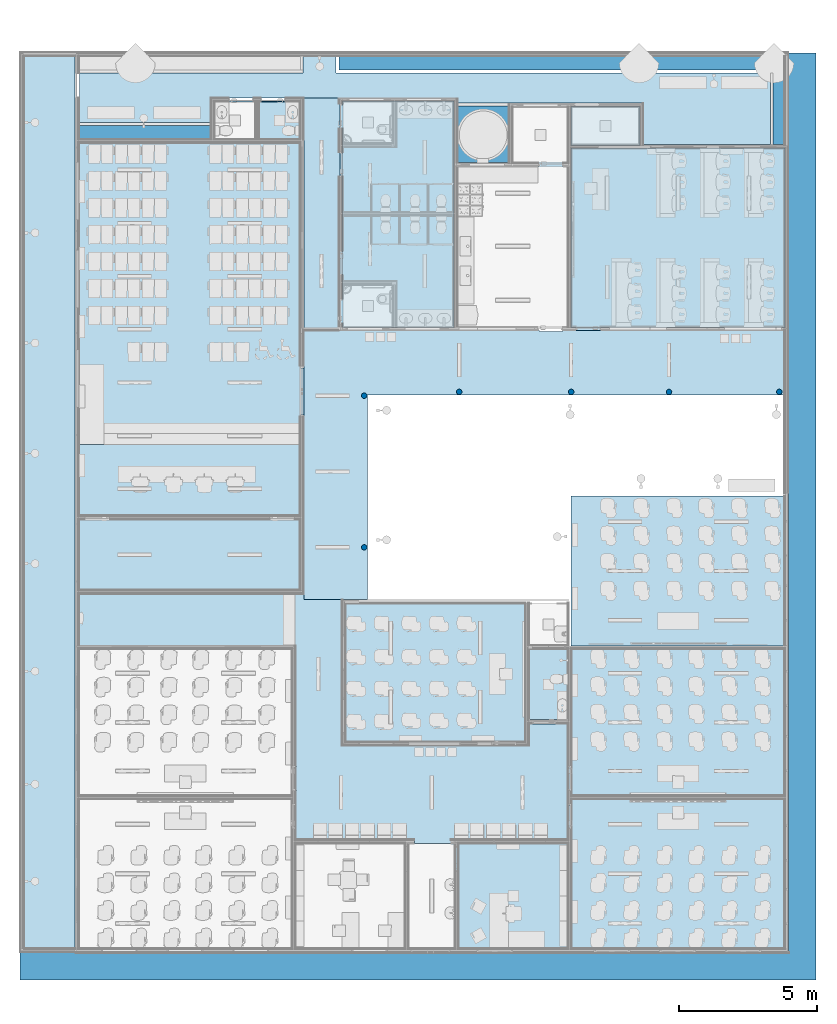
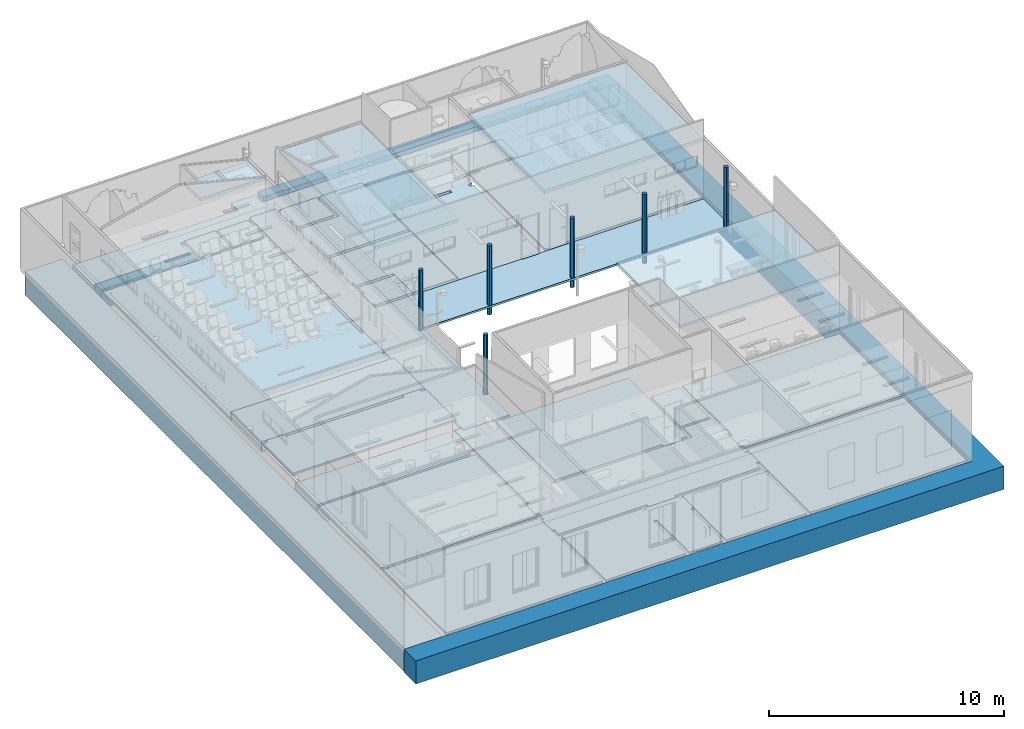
# One storey, part 1 of 155: 31 slabs, 6 columns.
"""IFC2X3 building model written with IfcOpenShell, lengths in metres."""

from ifc_helpers import new_model, entity, si_unit, converted_unit, derived_unit, direction, frame, frame_2d, origin, origin_2d_with_axis, place, context, subcontext, project, spatial, polyline, rectangle, circle, outline, extrude, source, transform, mapped, material, layer, layer_set, layer_usage, type_object, type_shapes, element, save


model = new_model("IFC2X3")

# Units and contexts
model_context = context("Model", 3, precision=1e-05, world=origin(), true_north=direction((6.12303176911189e-17, 1.0)))
body_context = subcontext(model_context, "Body", "Model", "MODEL_VIEW")
ifc_project = project(units=[si_unit("LENGTHUNIT", "METRE"), si_unit("AREAUNIT", "SQUARE_METRE"), si_unit("VOLUMEUNIT", "CUBIC_METRE"), converted_unit("PLANEANGLEUNIT", "DEGREE", entity("IfcRatioMeasure", 0.0174532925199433), si_unit("PLANEANGLEUNIT", "RADIAN"), dimensions=[0, 0, 0, 0, 0, 0, 0]), si_unit("MASSUNIT", "GRAM", prefix="KILO"), derived_unit("MASSDENSITYUNIT", [(si_unit("MASSUNIT", "GRAM", prefix="KILO"), 1), (si_unit("LENGTHUNIT", "METRE"), -3)]), si_unit("TIMEUNIT", "SECOND"), si_unit("FREQUENCYUNIT", "HERTZ"), si_unit("THERMODYNAMICTEMPERATUREUNIT", "DEGREE_CELSIUS"), derived_unit("THERMALTRANSMITTANCEUNIT", [(si_unit("MASSUNIT", "GRAM", prefix="KILO"), 1), (si_unit("THERMODYNAMICTEMPERATUREUNIT", "KELVIN"), -1), (si_unit("TIMEUNIT", "SECOND"), -3)]), derived_unit("VOLUMETRICFLOWRATEUNIT", [(si_unit("LENGTHUNIT", "METRE"), 3), (si_unit("TIMEUNIT", "SECOND"), -1)]), si_unit("ELECTRICCURRENTUNIT", "AMPERE"), si_unit("ELECTRICVOLTAGEUNIT", "VOLT"), si_unit("POWERUNIT", "WATT"), si_unit("FORCEUNIT", "NEWTON", prefix="KILO"), si_unit("ILLUMINANCEUNIT", "LUX"), si_unit("LUMINOUSFLUXUNIT", "LUMEN"), si_unit("LUMINOUSINTENSITYUNIT", "CANDELA"), derived_unit("USERDEFINED", [(si_unit("MASSUNIT", "GRAM", prefix="KILO"), -1), (si_unit("LENGTHUNIT", "METRE"), -2), (si_unit("TIMEUNIT", "SECOND"), 3), (si_unit("LUMINOUSFLUXUNIT", "LUMEN"), 1)]), derived_unit("LINEARVELOCITYUNIT", [(si_unit("LENGTHUNIT", "METRE"), 1), (si_unit("TIMEUNIT", "SECOND"), -1)]), si_unit("PRESSUREUNIT", "PASCAL"), derived_unit("USERDEFINED", [(si_unit("LENGTHUNIT", "METRE"), -2), (si_unit("MASSUNIT", "GRAM", prefix="KILO"), 1), (si_unit("TIMEUNIT", "SECOND"), -2)])], contexts=[model_context])

# Site, building, storey
site_placement = place(None, frame((26.9889013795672, -17.5624287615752, 0.0)))
site = spatial("IfcSite", under=ifc_project, at=site_placement, Name="Default", CompositionType="ELEMENT")
building_placement = place(site_placement, origin())
building = spatial("IfcBuilding", under=site, at=building_placement, Name="C. C. L. Monsenhor Antônio Sampaio", CompositionType="ELEMENT")
storey_placement = place(building_placement, frame((0.0, 0.0, 1.19999999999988)))
storey = spatial("IfcBuildingStorey", under=building, at=storey_placement, Name="Nível 1.2", CompositionType="ELEMENT", Elevation=1.19999999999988)

# Columns
column_type_1 = type_object("IfcColumnType", Name="d. 20cm", PredefinedType="COLUMN")
shared_shape_1 = source(origin(), body_context, "Body", "SweptSolid", [
    extrude(circle(Radius=0.0999999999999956, at=frame_2d((-4.2299497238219e-17, 1.69923679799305e-16), x_axis=(1.0, 0.0))), frame((0.0, 0.0, 1.19999999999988), z_axis=(0.0, 0.0, 1.0), x_axis=(-1.0, 0.0, 0.0)), (0.0, 0.0, 1.0), 3.10000000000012),
])
type_shapes(column_type_1, [shared_shape_1])
column_placement = place(storey_placement, frame((11.3994477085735, -19.1230663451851, -1.19999999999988)))
element("IfcColumn", 1, at=column_placement, inside=storey, type_object=column_type_1, Name="Pilar circular:d. 20cm", ObjectType="d. 20cm", context=body_context, shape_type="MappedRepresentation", body=[
    mapped(shared_shape_1, transform((0.0, 0.0, 0.0), scale=1.0)),
])
column_type_2 = type_object("IfcColumnType", Name="d. 20cm", PredefinedType="COLUMN")
shared_shape_2 = source(origin(), body_context, "Body", "SweptSolid", [
    extrude(circle(Radius=0.0999999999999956, at=frame_2d((-4.2299497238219e-17, 1.69923679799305e-16), x_axis=(1.0, 0.0))), frame((0.0, 0.0, 0.699999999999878), z_axis=(0.0, 0.0, 1.0), x_axis=(-1.0, 0.0, 0.0)), (0.0, 0.0, 1.0), 3.60000000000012),
])
type_shapes(column_type_2, [shared_shape_2])
for number, where, name in (
    (2, (3.84944770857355, -19.1230663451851, -1.19999999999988), "Pilar circular:d. 20cm"),
    (3, (-0.210552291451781, -19.1230663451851, -1.19999999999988), "Pilar circular:d. 20cm"),
    (4, (-3.65661057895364, -19.2606376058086, -1.19999999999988), "Pilar circular:d. 20cm"),
    (5, (-3.65661057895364, -24.7630663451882, -1.19999999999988), "Pilar circular:d. 20cm"),
    (6, (7.39944770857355, -19.1230663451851, -1.19999999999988), "Pilar circular:d. 20cm"),
):
    element("IfcColumn", number, at=place(storey_placement, frame(where)), inside=storey, type_object=column_type_2, Name=name, ObjectType="d. 20cm", context=body_context, shape_type="MappedRepresentation", body=[
        mapped(shared_shape_2, transform((0.0, 0.0, 0.0), scale=1.0)),
    ])

# Slabs
ifc_material_1 = material(Name=".CERÂMICA 40x40 BRANCA")
ifc_layer_1 = layer(ifc_material_1, 0.01)
ifc_material_2 = material(Name=".Cimentado")
ifc_layer_2 = layer(ifc_material_2, 0.03)
ifc_material_3 = material(Name=".Lastro de Concreto")
ifc_layer_3 = layer(ifc_material_3, 0.12)
ifc_layer_set_1 = layer_set([ifc_layer_1, ifc_layer_2, ifc_layer_3], Name="Piso:.Piso_Área Molhada_40x40")
ifc_layer_usage_1 = layer_usage(ifc_layer_set_1, "AXIS3", "POSITIVE", 0.0)
slab_1_placement = place(storey_placement, origin())
element("IfcSlab", 7, at=slab_1_placement, inside=storey, material=ifc_layer_usage_1, Name="Piso:.Piso_Área Molhada_40x40", ObjectType="Piso:.Piso_Área Molhada_40x40", PredefinedType="FLOOR", context=body_context, shape_type="SweptSolid", body=[
    extrude(outline(polyline([(-0.549999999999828, -0.540001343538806), (0.350000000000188, -0.540001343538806), (0.350000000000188, -0.420001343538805), (0.85000000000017, -0.420001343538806), (0.850000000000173, 1.38000403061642), (-0.650000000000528, 1.38000403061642), (-0.650000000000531, -0.420001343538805), (-0.549999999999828, -0.420001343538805), (-0.549999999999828, -0.540001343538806)])), frame((-4.00055094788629, -16.1030663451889, 0.0), z_axis=(0.0, 0.0, -1.0), x_axis=(0.0, 1.0, 0.0)), (0.0, 0.0, 1.0), 0.16),
])
ifc_layer_usage_2 = layer_usage(ifc_layer_set_1, "AXIS3", "POSITIVE", 0.0)
slab_2_placement = place(storey_placement, origin())
element("IfcSlab", 8, at=slab_2_placement, inside=storey, material=ifc_layer_usage_2, Name="Piso:.Piso_Área Molhada_40x40", ObjectType="Piso:.Piso_Área Molhada_40x40", PredefinedType="FLOOR", context=body_context, shape_type="SweptSolid", body=[
    extrude(outline(polyline([(-0.169999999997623, -1.25598030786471), (0.669999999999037, -1.25598030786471), (0.669999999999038, -1.13607876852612), (1.94999999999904, -1.13607876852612), (1.94999999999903, 2.86401969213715), (-2.05000000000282, 2.86401969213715), (-2.05000000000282, 0.664019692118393), (-0.399999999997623, 0.664019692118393), (-0.39999999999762, -1.13598030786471), (-0.169999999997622, -1.13598030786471), (-0.169999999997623, -1.25598030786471)])), frame((-3.28457198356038, -14.7030663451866, 0.0), z_axis=(0.0, 0.0, -1.0), x_axis=(0.0, 1.0, 0.0)), (0.0, 0.0, 1.0), 0.16),
])
ifc_layer_usage_3 = layer_usage(ifc_layer_set_1, "AXIS3", "POSITIVE", 0.0)
slab_3_placement = place(storey_placement, frame((-4.54055229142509, -12.6030663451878, -0.16)))
element("IfcSlab", 9, at=slab_3_placement, inside=storey, material=ifc_layer_usage_3, Name="Piso:.Piso_Área Molhada_40x40", ObjectType="Piso:.Piso_Área Molhada_40x40", PredefinedType="FLOOR", context=body_context, shape_type="SweptSolid", body=[
    extrude(outline(polyline([(1.94000000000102, 0.150000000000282), (1.94000000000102, 0.350000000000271), (-0.00836474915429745, 0.350000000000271), (-0.00836474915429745, 2.0), (-2.06000000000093, 2.0), (-2.06000000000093, -2.0), (1.94000000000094, -2.0), (1.94000000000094, -0.68999999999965), (2.06000000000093, -0.68999999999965), (2.06000000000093, 0.150000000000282), (1.94000000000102, 0.150000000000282)])), frame((2.06000000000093, 2.0, 0.16), z_axis=(0.0, 0.0, -1.0), x_axis=(-1.0, 0.0, 0.0)), (0.0, 0.0, 1.0), 0.16),
])
slab_4_placement = place(storey_placement, frame((-4.54055229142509, -12.6030663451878, -0.16)))
element("IfcSlab", 10, at=slab_4_placement, inside=storey, material=ifc_layer_usage_3, Name="Piso:.Piso_Área Molhada_40x40:2", ObjectType="Piso:.Piso_Área Molhada_40x40", PredefinedType="FLOOR", context=body_context, shape_type="SweptSolid", body=[
    extrude(outline(polyline([(0.14163525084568, 0.500000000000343), (1.94000000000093, 0.500000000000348), (1.94000000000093, 1.0561739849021), (2.06000000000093, 1.0561739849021), (2.06000000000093, 1.89500000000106), (1.94000000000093, 1.89500000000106), (1.94000000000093, 2.0), (0.141635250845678, 2.0), (0.14163525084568, 0.500000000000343)])), frame((2.06000000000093, 2.0, 0.16), z_axis=(0.0, 0.0, -1.0), x_axis=(-1.0, 0.0, 0.0)), (0.0, 0.0, 1.0), 0.16),
])
ifc_material_4 = material(Name=".Granilite areia com junta de dilatação 1x1m")
ifc_layer_4 = layer(ifc_material_4, 0.1)
ifc_layer_set_2 = layer_set([ifc_layer_4], Name="Piso:Granilite")
ifc_layer_usage_4 = layer_usage(ifc_layer_set_2, "AXIS3", "POSITIVE", 0.0)
slab_5_placement = place(storey_placement, origin())
element("IfcSlab", 11, at=slab_5_placement, inside=storey, material=ifc_layer_usage_4, Name="Piso:Granilite", ObjectType="Piso:Granilite", PredefinedType="FLOOR", context=body_context, shape_type="SweptSolid", body=[
    extrude(outline(polyline([(-3.69125000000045, -6.03500000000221), (7.2337500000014, -6.03500000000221), (7.23375000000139, 1.96000000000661), (-0.911250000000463, 1.96000000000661), (-0.911250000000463, 2.1099999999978), (-2.63125000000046, 2.1099999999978), (-2.63125000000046, 1.96499999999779), (-3.69125000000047, 1.96499999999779), (-3.69125000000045, -6.03500000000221)])), frame((-7.95055229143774, -17.3368163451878, 0.0), z_axis=(0.0, 0.0, -1.0), x_axis=(0.0, 1.0, 0.0)), (0.0, 0.0, 1.0), 0.1),
])
ifc_layer_usage_5 = layer_usage(ifc_layer_set_2, "AXIS3", "POSITIVE", 0.0)
slab_6_placement = place(storey_placement, origin())
element("IfcSlab", 12, at=slab_6_placement, inside=storey, material=ifc_layer_usage_5, Name="Piso:Granilite", ObjectType="Piso:Granilite", PredefinedType="FLOOR", context=body_context, shape_type="SweptSolid", body=[
    extrude(outline(polyline([(-2.17499999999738, -4.00083333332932), (0.374999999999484, -4.00083333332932), (0.374999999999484, -3.76583333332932), (0.524999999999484, -3.76583333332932), (0.524999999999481, -2.93083333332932), (0.374999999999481, -2.93083333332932), (0.374999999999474, 2.92916666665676), (0.524999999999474, 2.92916666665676), (0.524999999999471, 3.7691666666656), (0.374999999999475, 3.7691666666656), (0.374999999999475, 3.99916666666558), (-2.17499999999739, 3.99916666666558), (-2.17499999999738, -4.00083333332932)])), frame((-9.98971895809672, -24.1280663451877, 0.4), z_axis=(0.0, 0.0, -1.0), x_axis=(0.0, 1.0, 0.0)), (0.0, 0.0, 1.0), 0.1),
])
ifc_layer_usage_6 = layer_usage(ifc_layer_set_2, "AXIS3", "POSITIVE", 0.0)
slab_7_placement = place(storey_placement, origin())
element("IfcSlab", 13, at=slab_7_placement, inside=storey, material=ifc_layer_usage_6, Name="Piso:Granilite", ObjectType="Piso:Granilite", PredefinedType="FLOOR", context=body_context, shape_type="SweptSolid", body=[
    extrude(outline(polyline([(-9.13977899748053, -6.48797275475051), (9.05889498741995, -6.48797275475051), (9.05889498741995, -5.18797275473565), (0.610221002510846, -5.18797275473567), (0.610221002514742, 2.04844550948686), (0.58022100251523, 2.04844550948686), (0.580221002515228, 2.88344550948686), (0.610221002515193, 2.88344550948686), (0.610221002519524, 10.932027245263), (-1.71977899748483, 10.932027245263), (-1.71977899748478, -4.18797275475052), (-9.13977899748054, -4.18797275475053), (-9.13977899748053, -6.48797275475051)])), frame((0.647420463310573, -17.5132873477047, 0.0), z_axis=(0.0, 0.0, -1.0), x_axis=(0.0, 1.0, 0.0)), (0.0, 0.0, 1.0), 0.1),
])
ifc_material_5 = material(Name=".Grama")
ifc_layer_5 = layer(ifc_material_5, 1.0)
ifc_layer_set_3 = layer_set([ifc_layer_5], Name="Piso:Grama")
ifc_layer_usage_7 = layer_usage(ifc_layer_set_3, "AXIS3", "POSITIVE", 0.0)
slab_8_placement = place(storey_placement, origin())
element("IfcSlab", 14, at=slab_8_placement, inside=storey, material=ifc_layer_usage_7, Name="Piso:Grama", ObjectType="Piso:Grama", PredefinedType="FLOOR", context=body_context, shape_type="SweptSolid", body=[
    extrude(rectangle(XDim=1.88000000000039, YDim=7.53999999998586, at=frame_2d((0.0, 4.44089209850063e-16), x_axis=(1.0, 0.0))), frame((-10.2205522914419, -27.3930663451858, 0.0), z_axis=(0.0, 0.0, -1.0), x_axis=(0.0, 1.0, 0.0)), (0.0, 0.0, 1.0), 1.0),
])
ifc_layer_usage_8 = layer_usage(ifc_layer_set_2, "AXIS3", "POSITIVE", 0.0)
slab_9_placement = place(storey_placement, origin())
element("IfcSlab", 15, at=slab_9_placement, inside=storey, material=ifc_layer_usage_8, Name="Piso:Granilite", ObjectType="Piso:Granilite", PredefinedType="FLOOR", context=body_context, shape_type="SweptSolid", body=[
    extrude(rectangle(XDim=3.80000000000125, YDim=3.95000000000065, at=frame_2d((-2.22044604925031e-15, 0.0), x_axis=(1.0, 0.0))), frame((1.75444770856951, -37.4030663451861, 0.0), z_axis=(0.0, 0.0, -1.0), x_axis=(0.0, 1.0, 0.0)), (0.0, 0.0, 1.0), 0.1),
])
ifc_layer_usage_9 = layer_usage(ifc_layer_set_2, "AXIS3", "POSITIVE", 0.0)
slab_10_placement = place(storey_placement, origin())
element("IfcSlab", 16, at=slab_10_placement, inside=storey, material=ifc_layer_usage_9, Name="Piso:Granilite", ObjectType="Piso:Granilite", PredefinedType="FLOOR", context=body_context, shape_type="SweptSolid", body=[
    extrude(rectangle(XDim=5.30000000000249, YDim=7.69999999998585, at=frame_2d((0.671666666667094, 1.28333333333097), x_axis=(1.0, 0.0))), frame((-8.85721895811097, -31.7747330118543, -0.1), z_axis=(0.0, 0.0, 1.0), x_axis=(0.0, 1.0, 0.0)), (0.0, 0.0, 1.0), 0.1),
    extrude(outline(polyline([(-0.331388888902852, -0.0827777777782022), (-0.331388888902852, 2.70722222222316), (-4.28138888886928, 2.70722222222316), (-4.28138888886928, -1.09777777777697), (-0.331388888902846, -1.09777777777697), (-0.331388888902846, -0.982777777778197), (-0.181388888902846, -0.982777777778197), (-0.181388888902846, -1.09277777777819), (0.0186111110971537, -1.09277777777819), (1.36361111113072, -1.09277777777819), (1.48861111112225, -1.09277777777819), (1.48861111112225, -0.982777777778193), (1.63861111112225, -0.982777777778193), (1.63861111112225, -0.0827777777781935), (1.48861111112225, -0.0827777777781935), (1.48861111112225, 2.70722222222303), (-0.181388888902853, 2.70722222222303), (-0.181388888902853, -0.0827777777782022), (-0.331388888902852, -0.0827777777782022)])), frame((-1.85916340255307, -36.5958441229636, -0.1), z_axis=(0.0, 0.0, -1.0), x_axis=(1.0, 0.0, 0.0)), (0.0, 0.0, -1.0), 0.1),
    extrude(rectangle(XDim=5.40000000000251, YDim=7.69999999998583, at=frame_2d((-0.694999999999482, 1.28333333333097), x_axis=(1.0, 0.0))), frame((-8.85721895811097, -35.9080663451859, -0.1), z_axis=(0.0, 0.0, 1.0), x_axis=(0.0, 1.0, 0.0)), (0.0, 0.0, 1.0), 0.1),
])
ifc_layer_usage_10 = layer_usage(ifc_layer_set_2, "AXIS3", "POSITIVE", 0.0)
slab_11_placement = place(storey_placement, frame((3.75944770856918, -39.3030663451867, -0.1)))
element("IfcSlab", 17, at=slab_11_placement, inside=storey, material=ifc_layer_usage_10, Name="Piso:Granilite", ObjectType="Piso:Granilite", PredefinedType="FLOOR", context=body_context, shape_type="SweptSolid", body=[
    extrude(outline(polyline([(-3.91000000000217, 5.42500000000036), (-3.91000000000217, 0.125000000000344), (3.79000000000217, 0.125000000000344), (3.79000000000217, 0.295000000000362), (3.91000000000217, 0.295000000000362), (3.91000000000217, 1.19500000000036), (3.79000000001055, 1.19500000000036), (3.79000000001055, 5.42500000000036), (-3.91000000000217, 5.42500000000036)])), frame((3.91000000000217, 5.42500000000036, 0.1), z_axis=(0.0, 0.0, -1.0), x_axis=(-1.0, 0.0, 0.0)), (0.0, 0.0, 1.0), 0.1),
])
slab_12_placement = place(storey_placement, frame((3.75944770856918, -39.3030663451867, -0.1)))
element("IfcSlab", 18, at=slab_12_placement, inside=storey, material=ifc_layer_usage_10, Name="Piso:Granilite:2", ObjectType="Piso:Granilite", PredefinedType="FLOOR", context=body_context, shape_type="SweptSolid", body=[
    extrude(rectangle(XDim=5.40000000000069, YDim=7.70000000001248, at=frame_2d((-0.0599999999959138, -2.72500000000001), x_axis=(0.0, -1.0))), frame((3.91000000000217, 5.42500000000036, 0.1), z_axis=(0.0, 0.0, -1.0), x_axis=(-1.0, 0.0, 0.0)), (0.0, 0.0, 1.0), 0.1),
])
ifc_layer_usage_11 = layer_usage(ifc_layer_set_2, "AXIS3", "POSITIVE", 0.0)
slab_13_placement = place(storey_placement, origin())
element("IfcSlab", 19, at=slab_13_placement, inside=storey, material=ifc_layer_usage_11, Name="Piso:Granilite", ObjectType="Piso:Granilite", PredefinedType="FLOOR", context=body_context, shape_type="SweptSolid", body=[
    extrude(outline(polyline([(-1.57375000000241, -2.22070913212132), (4.87625000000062, -2.22070913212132), (4.87625000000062, 5.47929086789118), (-1.57874999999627, 5.47929086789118), (-1.57874999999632, -1.17929086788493), (-1.72375000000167, -1.17929086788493), (-1.72375000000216, -2.07929086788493), (-1.57375000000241, -2.07929086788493), (-1.57375000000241, -2.22070913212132)])), frame((6.10015684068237, -15.179316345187, 0.0), z_axis=(0.0, 0.0, -1.0), x_axis=(0.0, 1.0, 0.0)), (0.0, 0.0, 1.0), 0.1),
])
ifc_layer_usage_12 = layer_usage(ifc_layer_set_2, "AXIS3", "POSITIVE", 0.0)
slab_14_placement = place(storey_placement, origin())
element("IfcSlab", 20, at=slab_14_placement, inside=storey, material=ifc_layer_usage_12, Name="Piso:Granilite", ObjectType="Piso:Granilite", PredefinedType="FLOOR", context=body_context, shape_type="SweptSolid", body=[
    extrude(outline(polyline([(-2.00357142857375, -4.86357142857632), (-1.09357142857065, -4.86357142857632), (-1.09357142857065, -4.74357142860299), (-0.613571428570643, -4.74357142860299), (-0.613571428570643, -4.68357142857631), (-0.583571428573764, -4.68357142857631), (-0.583571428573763, -4.86357142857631), (0.286428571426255, -4.8635714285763), (0.286428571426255, -4.8335714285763), (0.251428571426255, -4.8335714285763), (0.251428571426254, -4.6835714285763), (0.286428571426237, -4.6835714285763), (0.286428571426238, -4.74357142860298), (6.51642857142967, -4.74357142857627), (6.51642857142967, -4.41357142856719), (6.31642857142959, -4.41357142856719), (6.31642857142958, -3.04357142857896), (1.01642857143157, -3.043571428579), (1.01642857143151, 3.756428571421), (1.80642857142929, 3.75642857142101), (1.80642857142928, 5.15642857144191), (0.286428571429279, 5.1564285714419), (0.286428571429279, 5.1264285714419), (0.25642857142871, 5.1264285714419), (0.256428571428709, 5.1864285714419), (-0.58357142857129, 5.18642857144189), (-0.58357142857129, 5.12642857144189), (-0.613571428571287, 5.12642857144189), (-0.613571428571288, 5.15642857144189), (-1.10357142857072, 5.15642857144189), (-1.10357142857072, 5.12642857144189), (-1.13357142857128, 5.12642857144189), (-1.13357142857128, 5.30642857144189), (-1.99357142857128, 5.30642857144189), (-1.99357142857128, 5.15642857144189), (-2.38357142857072, 5.15642857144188), (-2.38357142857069, 0.93142857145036), (-2.53357142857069, 0.931428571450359), (-2.53357142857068, -0.413571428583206), (-2.38357142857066, -0.413571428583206), (-2.38357142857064, -4.74357142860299), (-2.00357142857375, -4.74357142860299), (-2.00357142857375, -4.86357142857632)])), frame((-1.42698086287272, -32.9694949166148, 0.0), z_axis=(0.0, 0.0, -1.0), x_axis=(0.0, 1.0, 0.0)), (0.0, 0.0, 1.0), 0.1),
])
ifc_layer_usage_13 = layer_usage(ifc_layer_set_2, "AXIS3", "POSITIVE", 0.0)
slab_15_placement = place(storey_placement, origin())
element("IfcSlab", 21, at=slab_15_placement, inside=storey, material=ifc_layer_usage_13, Name="Piso:Granilite", ObjectType="Piso:Granilite", PredefinedType="FLOOR", context=body_context, shape_type="SweptSolid", body=[
    extrude(outline(polyline([(-1.21249999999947, -4.4874931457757), (3.78749999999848, -4.4874931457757), (3.78749999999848, 2.01250685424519), (-1.21249999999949, 2.01250685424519), (-1.21249999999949, 1.68749314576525), (-1.3624999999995, 1.68749314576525), (-1.3624999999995, 0.787493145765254), (-1.21249999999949, 0.787493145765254), (-1.21249999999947, -4.4874931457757)])), frame((0.166940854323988, -30.5905663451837, 0.0), z_axis=(0.0, 0.0, -1.0), x_axis=(0.0, 1.0, 0.0)), (0.0, 0.0, 1.0), 0.1),
])
ifc_material_6 = material(Name=".Piso intertravado")
ifc_layer_6 = layer(ifc_material_6, 0.01)
ifc_layer_7 = layer(ifc_material_2, 0.03)
ifc_layer_8 = layer(ifc_material_3, 0.05)
ifc_material_7 = material(Name=".Aterro Compactado")
ifc_layer_9 = layer(ifc_material_7, 0.11)
ifc_layer_set_4 = layer_set([ifc_layer_6, ifc_layer_7, ifc_layer_8, ifc_layer_9], Name="Piso:.Piso Externo-Bloco Intertravado")
ifc_layer_usage_14 = layer_usage(ifc_layer_set_4, "AXIS3", "POSITIVE", 0.0)
slab_16_placement = place(storey_placement, origin())
element("IfcSlab", 22, at=slab_16_placement, inside=storey, material=ifc_layer_usage_14, Name="Piso:.Piso Externo-Bloco Intertravado", ObjectType="Piso:.Piso Externo-Bloco Intertravado", PredefinedType="FLOOR", context=body_context, shape_type="SweptSolid", body=[
    extrude(outline(polyline([(-0.970881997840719, -11.6349999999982), (0.829118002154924, -11.6349999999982), (0.829118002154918, -3.52000000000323), (1.42911800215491, -3.52000000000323), (1.42911800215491, -2.31499999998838), (0.829118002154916, -2.31499999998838), (0.829118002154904, 13.4350000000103), (-1.77088199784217, 13.4350000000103), (-1.77088199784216, 8.82499999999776), (-0.270881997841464, 8.82499999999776), (-0.270881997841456, 2.08499999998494), (-0.0747080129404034, 2.08499999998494), (-0.0747080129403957, -6.87500000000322), (-0.970881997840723, -6.87500000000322), (-0.970881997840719, -11.6349999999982)])), frame((-2.35555229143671, -8.38218434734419, -0.15), z_axis=(0.0, 0.0, -1.0), x_axis=(0.0, 1.0, 0.0)), (0.0, 0.0, 1.0), 0.2),
])
ifc_layer_10 = layer(ifc_material_4, 0.53)
ifc_layer_set_5 = layer_set([ifc_layer_10], Name="Piso:Piso Palco")
ifc_layer_usage_15 = layer_usage(ifc_layer_set_5, "AXIS3", "POSITIVE", 0.0)
slab_17_placement = place(storey_placement, origin())
element("IfcSlab", 23, at=slab_17_placement, inside=storey, material=ifc_layer_usage_15, Name="Piso:Piso Palco", ObjectType="Piso:Piso Palco", PredefinedType="FLOOR", context=body_context, shape_type="SweptSolid", body=[
    extrude(rectangle(XDim=2.57500000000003, YDim=7.99500000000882, at=frame_2d((2.22044604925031e-15, 0.0), x_axis=(1.0, 0.0))), frame((-9.98805229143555, -22.3155663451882, 0.4), z_axis=(0.0, 0.0, -1.0), x_axis=(0.0, 1.0, 0.0)), (0.0, 0.0, 1.0), 0.53),
])
ifc_material_8 = material(Name=".Cimentado áspero com junta de dilatação")
ifc_layer_11 = layer(ifc_material_8, 0.06)
ifc_layer_12 = layer(ifc_material_3, 1.05)
ifc_layer_13 = layer(ifc_material_7, 0.09)
ifc_layer_set_6 = layer_set([ifc_layer_11, ifc_layer_12, ifc_layer_13], Name="Piso:Piso Externo_Cimentado")
ifc_layer_usage_16 = layer_usage(ifc_layer_set_6, "AXIS3", "POSITIVE", 0.0)
slab_18_placement = place(storey_placement, origin())
element("IfcSlab", 24, at=slab_18_placement, inside=storey, material=ifc_layer_usage_16, Name="Piso:Piso Externo_Cimentado", ObjectType="Piso:Piso Externo_Cimentado", PredefinedType="FLOOR", context=body_context, shape_type="SweptSolid", body=[
    extrude(outline(polyline([(-11.5399999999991, -18.9132972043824), (-10.5399999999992, -18.9132972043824), (-10.5399999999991, 8.95664860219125), (22.0799999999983, 8.95664860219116), (22.0799999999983, 9.95664860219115), (-11.5399999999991, 9.95664860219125), (-11.5399999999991, -18.9132972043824)])), frame((2.77654910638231, -28.9130663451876, 0.0), z_axis=(0.0, 0.0, -1.0), x_axis=(0.0, 1.0, 0.0)), (0.0, 0.0, 1.0), 1.2),
])
ifc_layer_usage_17 = layer_usage(ifc_layer_set_1, "AXIS3", "POSITIVE", 0.0)
slab_19_placement = place(storey_placement, frame((-9.11055229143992, -9.9765663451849, -0.16)))
element("IfcSlab", 25, at=slab_19_placement, inside=storey, material=ifc_layer_usage_17, Name="Piso:.Piso_Área Molhada_40x40", ObjectType="Piso:.Piso_Área Molhada_40x40", PredefinedType="FLOOR", context=body_context, shape_type="SweptSolid", body=[
    extrude(rectangle(XDim=1.39967398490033, YDim=1.52310022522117, at=frame_2d((0.800199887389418, 0.0), x_axis=(0.0, -1.0))), frame((1.56175, 0.699836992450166, 0.16), z_axis=(0.0, 0.0, -1.0), x_axis=(-1.0, 0.0, 0.0)), (0.0, 0.0, 1.0), 0.16),
])
slab_20_placement = place(storey_placement, frame((-9.11055229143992, -9.9765663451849, -0.16)))
element("IfcSlab", 26, at=slab_20_placement, inside=storey, material=ifc_layer_usage_17, Name="Piso:.Piso_Área Molhada_40x40:2", ObjectType="Piso:.Piso_Área Molhada_40x40", PredefinedType="FLOOR", context=body_context, shape_type="SweptSolid", body=[
    extrude(rectangle(XDim=1.496468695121, YDim=1.37317398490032, at=frame_2d((-0.813515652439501, -0.0132500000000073), x_axis=(1.0, 0.0))), frame((1.56175, 0.699836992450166, 0.16), z_axis=(0.0, 0.0, -1.0), x_axis=(-1.0, 0.0, 0.0)), (0.0, 0.0, 1.0), 0.16),
])
ifc_layer_usage_18 = layer_usage(ifc_layer_set_3, "AXIS3", "POSITIVE", 0.0)
slab_21_placement = place(storey_placement, origin())
element("IfcSlab", 27, at=slab_21_placement, inside=storey, material=ifc_layer_usage_18, Name="Piso:Grama", ObjectType="Piso:Grama", PredefinedType="FLOOR", context=body_context, shape_type="SweptSolid", body=[
    extrude(rectangle(XDim=0.500000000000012, YDim=4.75999999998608, at=origin_2d_with_axis()), frame((-11.610552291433, -9.70306634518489, 0.0), z_axis=(0.0, 0.0, -1.0), x_axis=(0.0, 1.0, 0.0)), (0.0, 0.0, 1.0), 1.0),
])
ifc_layer_usage_19 = layer_usage(ifc_layer_set_3, "AXIS3", "POSITIVE", 0.0)
slab_22_placement = place(storey_placement, origin())
element("IfcSlab", 28, at=slab_22_placement, inside=storey, material=ifc_layer_usage_19, Name="Piso:Grama", ObjectType="Piso:Grama", PredefinedType="FLOOR", context=body_context, shape_type="SweptSolid", body=[
    extrude(outline(polyline([(0.733333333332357, -10.6333333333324), (1.23333333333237, -10.6333333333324), (1.23333333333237, 5.51666666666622), (-1.96666666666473, 5.51666666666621), (-1.96666666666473, 5.11666666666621), (0.733333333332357, 5.11666666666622), (0.733333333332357, -10.6333333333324)])), frame((6.06278104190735, -8.18639967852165, 0.0), z_axis=(0.0, 0.0, -1.0), x_axis=(0.0, 1.0, 0.0)), (0.0, 0.0, 1.0), 1.0),
])
ifc_layer_usage_20 = layer_usage(ifc_layer_set_3, "AXIS3", "POSITIVE", 0.0)
slab_23_placement = place(storey_placement, origin())
element("IfcSlab", 29, at=slab_23_placement, inside=storey, material=ifc_layer_usage_20, Name="Piso:Grama", ObjectType="Piso:Grama", PredefinedType="FLOOR", context=body_context, shape_type="SweptSolid", body=[
    extrude(rectangle(XDim=2.05000000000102, YDim=1.85000000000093, at=frame_2d((1.11022302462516e-15, 0.0), x_axis=(1.0, 0.0))), frame((0.654447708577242, -9.77806634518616, 0.0), z_axis=(0.0, 0.0, -1.0), x_axis=(0.0, 1.0, 0.0)), (0.0, 0.0, 1.0), 1.0),
])
ifc_material_9 = material(Name="Concreto, Moldado no local - Cinza")
ifc_layer_14 = layer(ifc_material_9, 0.125)
ifc_material_10 = material(Name="Acabamento Verde")
ifc_layer_15 = layer(ifc_material_10, 0.025)
ifc_layer_set_7 = layer_set([ifc_layer_14, ifc_layer_15], Name="Piso:.Laje .15")
ifc_layer_usage_21 = layer_usage(ifc_layer_set_7, "AXIS3", "POSITIVE", 0.0)
slab_24_placement = place(storey_placement, origin())
element("IfcSlab", 30, at=slab_24_placement, inside=storey, material=ifc_layer_usage_21, Name="Piso:.Laje .15", ObjectType="Piso:.Laje .15", PredefinedType="FLOOR", context=body_context, shape_type="SweptSolid", body=[
    extrude(rectangle(XDim=6.51000000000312, YDim=7.7598317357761, at=origin_2d_with_axis()), frame((7.7295318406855, -13.5280663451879, 3.05), z_axis=(0.0, 0.0, -1.0), x_axis=(0.0, 1.0, 0.0)), (0.0, 0.0, 1.0), 0.15),
])
ifc_layer_usage_22 = layer_usage(ifc_layer_set_7, "AXIS3", "POSITIVE", 0.0)
slab_25_placement = place(storey_placement, origin())
element("IfcSlab", 31, at=slab_25_placement, inside=storey, material=ifc_layer_usage_22, Name="Piso:.Laje .15", ObjectType="Piso:.Laje .15", PredefinedType="FLOOR", context=body_context, shape_type="SweptSolid", body=[
    extrude(rectangle(XDim=5.43000000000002, YDim=7.76007053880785, at=origin_2d_with_axis()), frame((7.7294124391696, -25.618066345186, 3.05), z_axis=(0.0, 0.0, -1.0), x_axis=(0.0, 1.0, 0.0)), (0.0, 0.0, 1.0), 0.15),
])
ifc_layer_usage_23 = layer_usage(ifc_layer_set_7, "AXIS3", "POSITIVE", 0.0)
slab_26_placement = place(storey_placement, origin())
element("IfcSlab", 32, at=slab_26_placement, inside=storey, material=ifc_layer_usage_23, Name="Piso:.Laje .15", ObjectType="Piso:.Laje .15", PredefinedType="FLOOR", context=body_context, shape_type="SweptSolid", body=[
    extrude(rectangle(XDim=1.40617398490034, YDim=3.14999999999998, at=origin_2d_with_axis()), frame((-7.53555229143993, -9.27997935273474, 3.05), z_axis=(0.0, 0.0, -1.0), x_axis=(0.0, 1.0, 0.0)), (0.0, 0.0, 1.0), 0.15),
])
ifc_layer_usage_24 = layer_usage(ifc_layer_set_7, "AXIS3", "POSITIVE", 0.0)
slab_27_placement = place(storey_placement, origin())
element("IfcSlab", 33, at=slab_27_placement, inside=storey, material=ifc_layer_usage_24, Name="Piso:.Laje .15", ObjectType="Piso:.Laje .15", PredefinedType="FLOOR", context=body_context, shape_type="SweptSolid", body=[
    extrude(rectangle(XDim=8.20867398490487, YDim=4.06000000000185, at=origin_2d_with_axis()), frame((-2.42055229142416, -12.678729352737, 3.05), z_axis=(0.0, 0.0, -1.0), x_axis=(0.0, 1.0, 0.0)), (0.0, 0.0, 1.0), 0.15),
])
ifc_layer_usage_25 = layer_usage(ifc_layer_set_1, "AXIS3", "POSITIVE", 0.0)
slab_28_placement = place(storey_placement, origin())
element("IfcSlab", 34, at=slab_28_placement, inside=storey, material=ifc_layer_usage_25, Name="Piso:.Piso_Área Molhada_40x40", ObjectType="Piso:.Piso_Área Molhada_40x40", PredefinedType="FLOOR", context=body_context, shape_type="SweptSolid", body=[
    extrude(rectangle(XDim=1.41000000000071, YDim=2.49983173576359, at=frame_2d((1.11022302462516e-15, 2.22044604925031e-16), x_axis=(1.0, 0.0))), frame((5.09953184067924, -9.47806634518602, 0.0), z_axis=(0.0, 0.0, -1.0), x_axis=(0.0, 1.0, 0.0)), (0.0, 0.0, 1.0), 0.16),
])
ifc_layer_usage_26 = layer_usage(ifc_layer_set_6, "AXIS3", "POSITIVE", 0.0)
slab_29_placement = place(storey_placement, origin())
element("IfcSlab", 35, at=slab_29_placement, inside=storey, material=ifc_layer_usage_26, Name="Piso:Piso Externo_Cimentado", ObjectType="Piso:Piso Externo_Cimentado", PredefinedType="FLOOR", context=body_context, shape_type="SweptSolid", body=[
    extrude(rectangle(XDim=32.3499999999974, YDim=1.84994580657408, at=frame_2d((1.77635683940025e-15, 0.0), x_axis=(1.0, 0.0))), frame((-15.0655251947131, -23.1280663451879, -0.15), z_axis=(0.0, 0.0, -1.0), x_axis=(0.0, 1.0, 0.0)), (0.0, 0.0, 1.0), 1.2),
])
ifc_layer_usage_27 = layer_usage(ifc_layer_set_1, "AXIS3", "POSITIVE", 0.0)
slab_30_placement = place(storey_placement, origin())
element("IfcSlab", 36, at=slab_30_placement, inside=storey, material=ifc_layer_usage_27, Name="Piso:.Piso_Área Molhada_40x40", ObjectType="Piso:.Piso_Área Molhada_40x40", PredefinedType="FLOOR", context=body_context, shape_type="SweptSolid", body=[
    extrude(rectangle(XDim=2.5599999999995, YDim=1.40001370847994, at=frame_2d((-2.22044604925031e-15, -3.88578058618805e-16), x_axis=(1.0, 0.0))), frame((3.02944085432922, -29.7330663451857, -0.0299999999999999), z_axis=(0.0, 0.0, -1.0), x_axis=(0.0, 1.0, 0.0)), (0.0, 0.0, 1.0), 0.16),
])
ifc_layer_usage_28 = layer_usage(ifc_layer_set_1, "AXIS3", "POSITIVE", 0.0)
slab_31_placement = place(storey_placement, origin())
element("IfcSlab", 37, at=slab_31_placement, inside=storey, material=ifc_layer_usage_28, Name="Piso:.Piso_Área Molhada_40x40", ObjectType="Piso:.Piso_Área Molhada_40x40", PredefinedType="FLOOR", context=body_context, shape_type="SweptSolid", body=[
    extrude(outline(polyline([(-5.24166666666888, -2.79386217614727), (0.558333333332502, -2.79386217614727), (0.558333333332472, 0.1375560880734), (0.708333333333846, 0.1375560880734), (0.708333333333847, -0.793862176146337), (2.70833333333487, -0.793862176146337), (2.70833333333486, 1.2063060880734), (0.708333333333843, 1.2063060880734), (0.708333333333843, 1.0375560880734), (0.558333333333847, 1.0375560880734), (0.558333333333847, 1.2063060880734), (-5.24166666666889, 1.2063060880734), (-5.24166666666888, -2.79386217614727)])), frame((2.52330988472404, -11.5113996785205, -0.15), z_axis=(0.0, 0.0, -1.0), x_axis=(0.0, 1.0, 0.0)), (0.0, 0.0, 1.0), 0.16),
])

save(model, "model.ifc")
